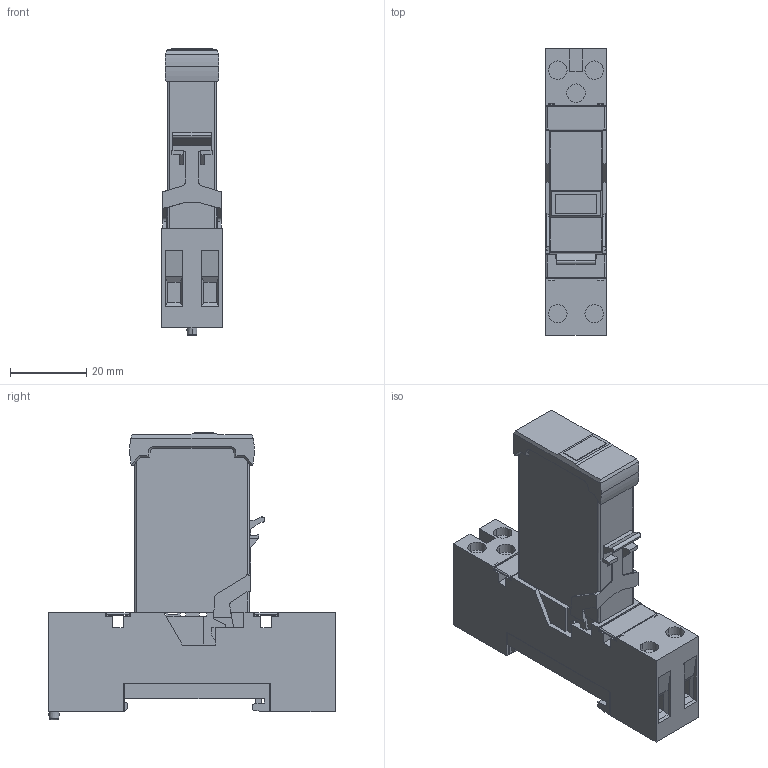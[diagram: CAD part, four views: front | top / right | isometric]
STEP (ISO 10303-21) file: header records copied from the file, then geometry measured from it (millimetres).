
FILE_DESCRIPTION (( 'STEP AP214' ), '1' );
FILE_NAME ('CSS_plus_S10.STEP', '2024-04-04T13:23:28', ( '' ), ( '' ), 'SwSTEP 2.0', 'SolidWorks 2022', '' );
FILE_SCHEMA (( 'AUTOMOTIVE_DESIGN' ));
Length unit declared in the file: millimetre
Products named in the file (1): CSS_plus_S10
Bounding box: 15.8 x 75 x 75.1 mm (x, y, z)
Volume: 42944.5 mm3; surface area: 18005.7 mm2
Topology: 1 solids, 17 shells, 838 faces, 2297 edges, 1476 vertices
Faces by surface type: plane 715, cylinder 105, cone 8, sphere 8, torus 2
Entity records: 35379 total; most frequent: CARTESIAN_POINT 4782, ORIENTED_EDGE 4578, DIRECTION 4157, EDGE_CURVE 2289, LINE 2031, VECTOR 2031, VERTEX_POINT 1476, AXIS2_PLACEMENT_3D 1063
